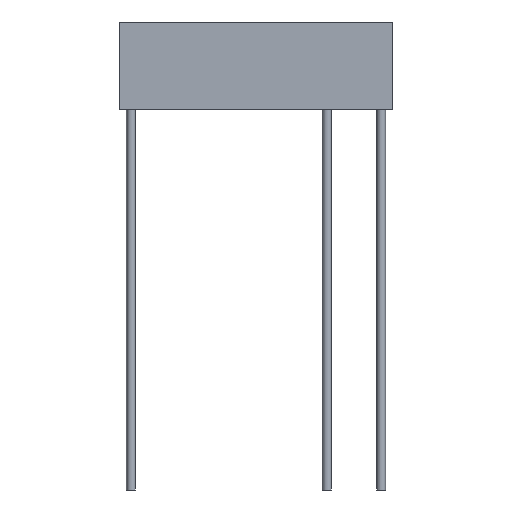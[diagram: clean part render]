
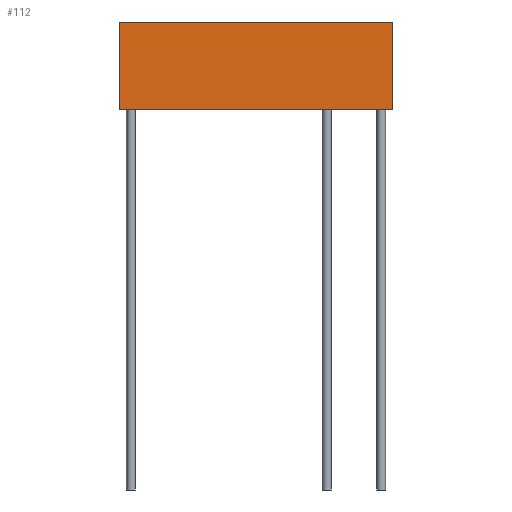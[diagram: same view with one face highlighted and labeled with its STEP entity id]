
A CAD part, front view. The second image highlights one B-rep face of the part: STEP entity #112.
In plain terms, the highlighted planar face has unit normal (0, -1, 0).
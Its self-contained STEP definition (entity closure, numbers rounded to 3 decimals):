
#112=ADVANCED_FACE('',(#214),#216,.T.);
#214=FACE_BOUND('',#215,.T.);
#215=EDGE_LOOP('',(#289,#290,#291,#292));
#216=PLANE('',#217);
#217=AXIS2_PLACEMENT_3D('',#218,#219,#220);
#218=CARTESIAN_POINT('',(-12.5,-1.25,0.));
#219=DIRECTION('',(0.,-1.,0.));
#220=DIRECTION('',(1.,0.,0.));
#289=ORIENTED_EDGE('',*,*,#308,.T.);
#290=ORIENTED_EDGE('',*,*,#324,.T.);
#291=ORIENTED_EDGE('',*,*,#325,.F.);
#292=ORIENTED_EDGE('',*,*,#326,.F.);
#308=EDGE_CURVE('',#336,#334,#337,.T.);
#324=EDGE_CURVE('',#334,#362,#364,.T.);
#325=EDGE_CURVE('',#365,#362,#366,.T.);
#326=EDGE_CURVE('',#336,#365,#367,.T.);
#334=VERTEX_POINT('',#383);
#336=VERTEX_POINT('',#387);
#337=LINE('',#388,#389);
#362=VERTEX_POINT('',#450);
#364=LINE('',#454,#455);
#365=VERTEX_POINT('',#457);
#366=LINE('',#458,#459);
#367=LINE('',#461,#462);
#383=CARTESIAN_POINT('',(12.5,-1.25,0.));
#387=CARTESIAN_POINT('',(-12.5,-1.25,0.));
#388=CARTESIAN_POINT('',(-12.5,-1.25,0.));
#389=VECTOR('',#390,1.);
#390=DIRECTION('',(1.,0.,0.));
#450=CARTESIAN_POINT('',(12.5,-1.25,8.));
#454=CARTESIAN_POINT('',(12.5,-1.25,0.));
#455=VECTOR('',#456,1.);
#456=DIRECTION('',(0.,0.,1.));
#457=CARTESIAN_POINT('',(-12.5,-1.25,8.));
#458=CARTESIAN_POINT('',(-12.5,-1.25,8.));
#459=VECTOR('',#460,1.);
#460=DIRECTION('',(1.,0.,0.));
#461=CARTESIAN_POINT('',(-12.5,-1.25,0.));
#462=VECTOR('',#463,1.);
#463=DIRECTION('',(0.,0.,1.));
